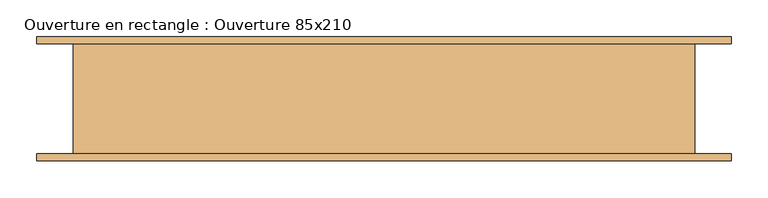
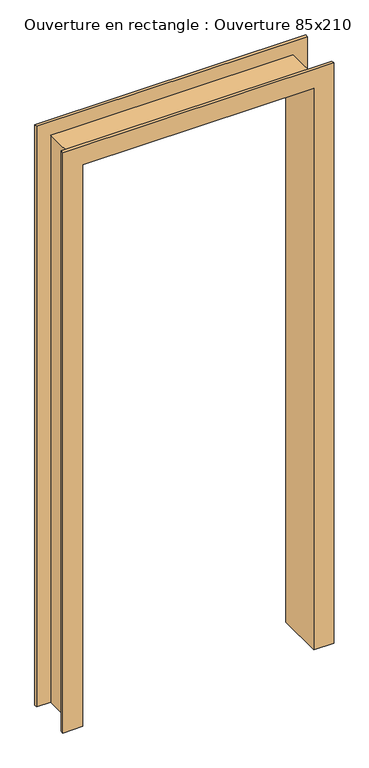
"""IFC4 building model written with IfcOpenShell, lengths in millimetres: door geometry, Ouverture en rectangle : Ouverture 85x210."""

from ifc_helpers import new_model, si_unit, origin, place, context, project, spatial, faceted_brep, source, transform, mapped, element, save


def ouverture_en_rectangle_ouverture_85x210_0c7ad7c7(model_context):
    return source(origin(), model_context, "Body", "Brep", [
        faceted_brep([(-425.0, -75.0, 0.0), (-425.0, 75.0, 0.0), (-475.0, 75.0, 0.0), (-475.0, 85.0, 0.0), (-405.0, 85.0, 0.0), (-405.0, -85.0, 0.0), (-475.0, -85.0, 0.0), (-475.0, -75.0, 0.0), (-425.0, -75.0, 2100.0), (-425.0, 75.0, 2100.0), (425.0, 75.0, 2100.0), (425.0, 75.0, 0.0), (475.0, 75.0, 0.0), (475.0, 75.0, 2150.0), (-475.0, 75.0, 2150.0), (-475.0, 85.0, 2150.0), (475.0, 85.0, 2150.0), (475.0, 85.0, 0.0), (405.0, 85.0, 0.0), (405.0, 85.0, 2080.0), (-405.0, 85.0, 2080.0), (-405.0, -85.0, 2080.0), (405.0, -85.0, 2080.0), (405.0, -85.0, 0.0), (475.0, -85.0, 0.0), (475.0, -85.0, 2150.0), (-475.0, -85.0, 2150.0), (-475.0, -75.0, 2150.0), (475.0, -75.0, 2150.0), (475.0, -75.0, 0.0), (425.0, -75.0, 0.0), (425.0, -75.0, 2100.0)], [[[0, 1, 2, 3, 4, 5, 6, 7]], [[1, 0, 8, 9]], [[2, 1, 9, 10, 11, 12, 13, 14]], [[3, 2, 14, 15]], [[4, 3, 15, 16, 17, 18, 19, 20]], [[5, 4, 20, 21]], [[6, 5, 21, 22, 23, 24, 25, 26]], [[7, 6, 26, 27]], [[0, 7, 27, 28, 29, 30, 31, 8]], [[10, 31, 30, 11]], [[30, 29, 24, 23, 18, 17, 12, 11]], [[16, 13, 12, 17]], [[22, 19, 18, 23]], [[28, 25, 24, 29]], [[9, 8, 31, 10]], [[15, 14, 13, 16]], [[21, 20, 19, 22]], [[27, 26, 25, 28]]]),
    ])


if __name__ == "__main__":
    model = new_model("IFC4")
    model_context = context("Model", 3, world=origin())
    ifc_project = project(units=[si_unit("LENGTHUNIT", "METRE", prefix="MILLI")], contexts=[model_context])
    site = spatial("IfcSite", under=ifc_project)
    building = spatial("IfcBuilding", under=site)
    placement = place(None, origin())
    ouverture_en_rectangle_ouverture_85x210_shape = ouverture_en_rectangle_ouverture_85x210_0c7ad7c7(model_context)
    element("IfcDoor", 1, ObjectType="Ouverture en rectangle : Ouverture 85x210", at=placement, inside=building, context=model_context, shape_type="MappedRepresentation", body=[
        mapped(ouverture_en_rectangle_ouverture_85x210_shape, transform((0.0, 0.0, 0.0), x_axis=(1.0, 0.0, 0.0), y_axis=(0.0, 1.0, 0.0), z_axis=(0.0, 0.0, 1.0))),
    ])
    save(model, "model.ifc")
